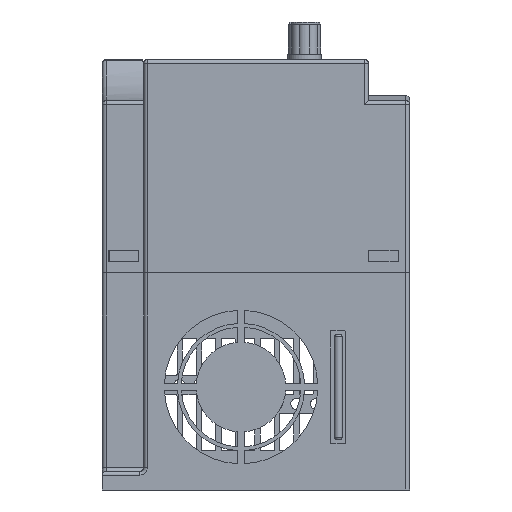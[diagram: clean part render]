
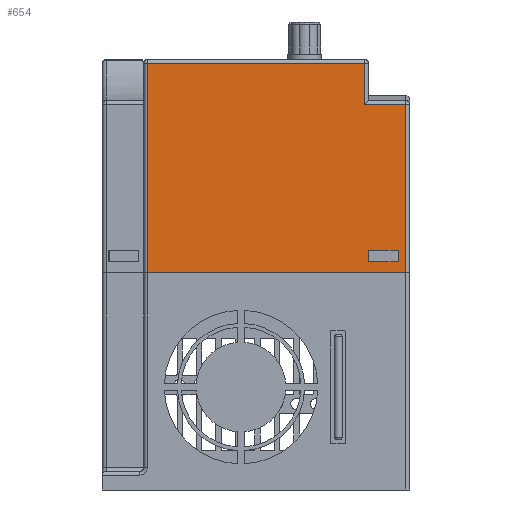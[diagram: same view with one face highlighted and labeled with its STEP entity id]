
A CAD part, front view. The second image highlights one B-rep face of the part: STEP entity #654.
In plain terms, the highlighted planar face has unit normal (0, -1, 0).
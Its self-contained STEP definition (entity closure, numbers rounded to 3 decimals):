
#654=ADVANCED_FACE('',(#32224,#32226),#32228,.T.);
#32224=FACE_BOUND('',#32225,.T.);
#32225=EDGE_LOOP('',(#58605,#58606,#58607,#58608,#58609,#58610));
#32226=FACE_BOUND('',#32227,.T.);
#32227=EDGE_LOOP('',(#58611,#58612,#58613,#58614));
#32228=PLANE('',#32229);
#32229=AXIS2_PLACEMENT_3D('',#32230,#32231,#32232);
#32230=CARTESIAN_POINT('',(-82.,-145.,0.));
#32231=DIRECTION('',(0.,-1.,0.));
#32232=DIRECTION('',(1.,0.,0.));
#58605=ORIENTED_EDGE('',*,*,#81149,.F.);
#58606=ORIENTED_EDGE('',*,*,#81150,.T.);
#58607=ORIENTED_EDGE('',*,*,#80805,.T.);
#58608=ORIENTED_EDGE('',*,*,#81147,.T.);
#58609=ORIENTED_EDGE('',*,*,#81151,.T.);
#58610=ORIENTED_EDGE('',*,*,#81152,.T.);
#58611=ORIENTED_EDGE('',*,*,#81153,.T.);
#58612=ORIENTED_EDGE('',*,*,#81154,.T.);
#58613=ORIENTED_EDGE('',*,*,#81155,.T.);
#58614=ORIENTED_EDGE('',*,*,#81156,.T.);
#80805=EDGE_CURVE('',#90791,#90789,#90792,.T.);
#81147=EDGE_CURVE('',#90789,#91450,#91451,.T.);
#81149=EDGE_CURVE('',#91453,#91454,#91455,.T.);
#81150=EDGE_CURVE('',#91453,#90791,#91456,.F.);
#81151=EDGE_CURVE('',#91450,#91457,#91458,.F.);
#81152=EDGE_CURVE('',#91457,#91454,#91459,.T.);
#81153=EDGE_CURVE('',#91460,#91461,#91462,.F.);
#81154=EDGE_CURVE('',#91461,#91463,#91464,.F.);
#81155=EDGE_CURVE('',#91463,#91465,#91466,.F.);
#81156=EDGE_CURVE('',#91465,#91460,#91467,.F.);
#90789=VERTEX_POINT('',#107455);
#90791=VERTEX_POINT('',#107460);
#90792=LINE('',#107461,#107462);
#91450=VERTEX_POINT('',#108905);
#91451=LINE('',#108906,#108907);
#91453=VERTEX_POINT('',#108913);
#91454=VERTEX_POINT('',#108914);
#91455=LINE('',#108915,#108916);
#91456=LINE('',#108918,#108919);
#91457=VERTEX_POINT('',#108921);
#91458=LINE('',#108922,#108923);
#91459=LINE('',#108925,#108926);
#91460=VERTEX_POINT('',#108928);
#91461=VERTEX_POINT('',#108929);
#91462=LINE('',#108930,#108931);
#91463=VERTEX_POINT('',#108933);
#91464=LINE('',#108934,#108935);
#91465=VERTEX_POINT('',#108937);
#91466=LINE('',#108938,#108939);
#91467=LINE('',#108941,#108942);
#107455=CARTESIAN_POINT('',(-1.,-145.,0.));
#107460=CARTESIAN_POINT('',(-70.,-145.,0.));
#107461=CARTESIAN_POINT('',(-70.,-145.,0.));
#107462=VECTOR('',#107463,1.);
#107463=DIRECTION('',(1.,0.,0.));
#108905=CARTESIAN_POINT('',(-1.,-145.,45.));
#108906=CARTESIAN_POINT('',(-1.,-145.,0.));
#108907=VECTOR('',#108908,1.);
#108908=DIRECTION('',(0.,0.,1.));
#108913=CARTESIAN_POINT('',(-70.,-145.,56.));
#108914=CARTESIAN_POINT('',(-12.,-145.,56.));
#108915=CARTESIAN_POINT('',(-70.,-145.,56.));
#108916=VECTOR('',#108917,1.);
#108917=DIRECTION('',(1.,0.,0.));
#108918=CARTESIAN_POINT('',(-70.,-145.,0.));
#108919=VECTOR('',#108920,1.);
#108920=DIRECTION('',(0.,0.,1.));
#108921=CARTESIAN_POINT('',(-12.,-145.,45.));
#108922=CARTESIAN_POINT('',(-12.,-145.,45.));
#108923=VECTOR('',#108924,1.);
#108924=DIRECTION('',(1.,0.,0.));
#108925=CARTESIAN_POINT('',(-12.,-145.,45.));
#108926=VECTOR('',#108927,1.);
#108927=DIRECTION('',(0.,0.,1.));
#108928=CARTESIAN_POINT('',(-11.,-145.,6.));
#108929=CARTESIAN_POINT('',(-3.,-145.,6.));
#108930=CARTESIAN_POINT('',(-3.,-145.,6.));
#108931=VECTOR('',#108932,1.);
#108932=DIRECTION('',(-1.,0.,0.));
#108933=CARTESIAN_POINT('',(-3.,-145.,3.));
#108934=CARTESIAN_POINT('',(-3.,-145.,3.));
#108935=VECTOR('',#108936,1.);
#108936=DIRECTION('',(0.,0.,1.));
#108937=CARTESIAN_POINT('',(-11.,-145.,3.));
#108938=CARTESIAN_POINT('',(-11.,-145.,3.));
#108939=VECTOR('',#108940,1.);
#108940=DIRECTION('',(1.,0.,0.));
#108941=CARTESIAN_POINT('',(-11.,-145.,6.));
#108942=VECTOR('',#108943,1.);
#108943=DIRECTION('',(0.,0.,-1.));
